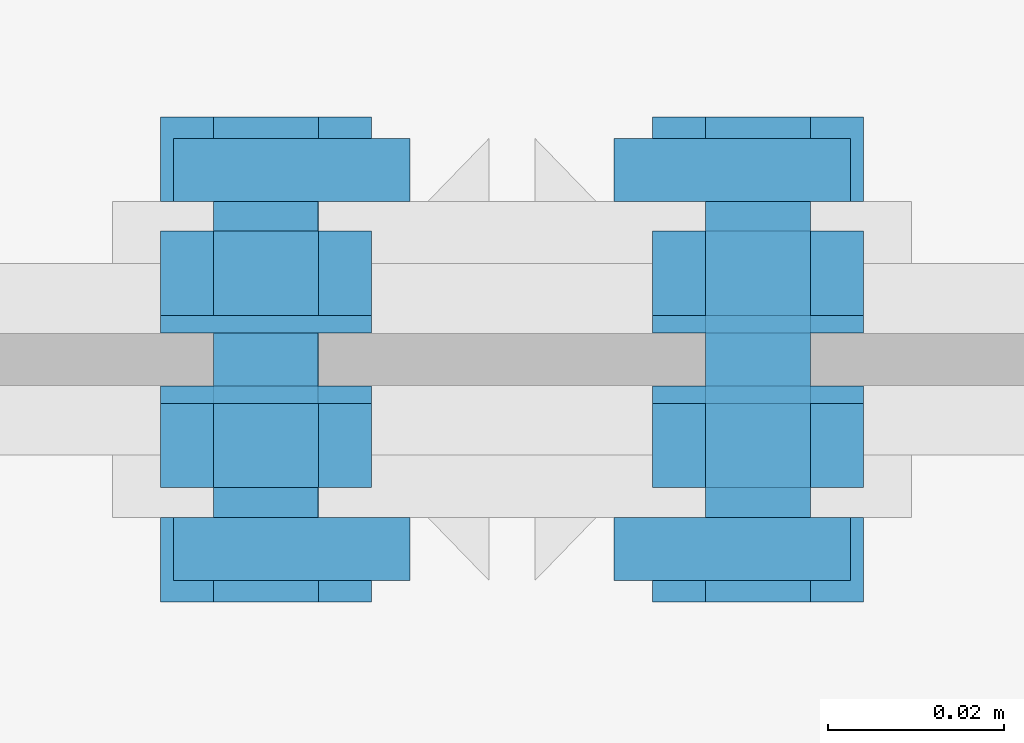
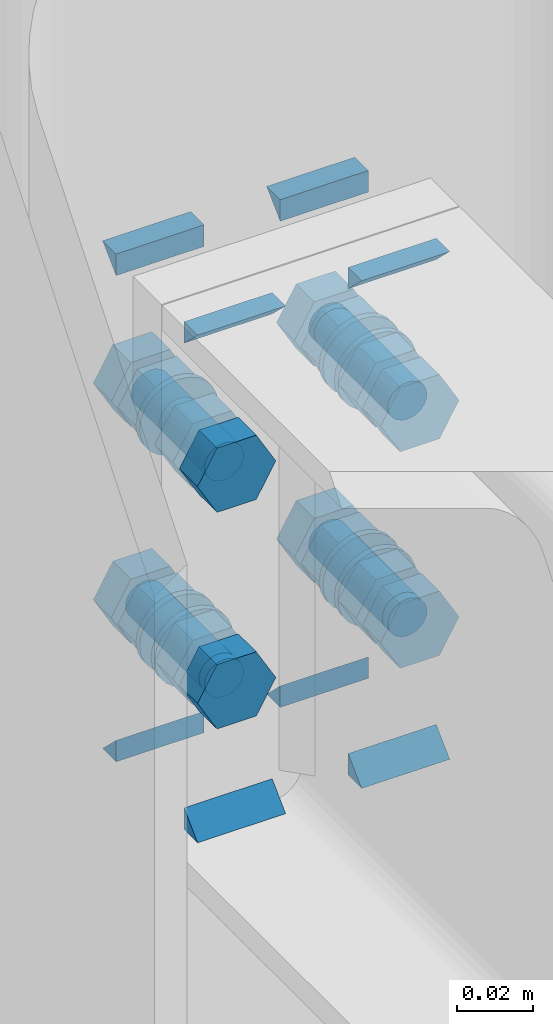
# One storey, part 135 of 251: 31 mechanical fasteners, 16 fasteners.
"""IFC4 building model written with IfcOpenShell, lengths in metres."""

from ifc_helpers import new_model, si_unit, frame, origin_with_axes, place, context, project, spatial, polyline, outline, extrude, type_object, element, save


model = new_model("IFC4")

# Units and contexts
model_context = context("Model", 3, precision=1e-05, world=origin_with_axes())
ifc_project = project(units=[si_unit("LENGTHUNIT", "METRE"), si_unit("AREAUNIT", "SQUARE_METRE"), si_unit("VOLUMEUNIT", "CUBIC_METRE"), si_unit("MASSUNIT", "GRAM", prefix="KILO"), si_unit("TIMEUNIT", "SECOND"), si_unit("PLANEANGLEUNIT", "RADIAN"), si_unit("SOLIDANGLEUNIT", "STERADIAN"), si_unit("THERMODYNAMICTEMPERATUREUNIT", "DEGREE_CELSIUS")], contexts=[model_context])

# Site, building, storey
placement_1 = place(None, origin_with_axes())
site = spatial("IfcSite", under=ifc_project, at=placement_1, Name="Italia", CompositionType="ELEMENT")
building = spatial("IfcBuilding", under=site, at=placement_1, Name="Deposito", CompositionType="ELEMENT")
storey = spatial("IfcBuildingStorey", under=building, at=placement_1, Name="Storey 0", CompositionType="ELEMENT", Elevation=0.0)

# Fasteners
fastener_type_1 = type_object("IfcFastenerType", Name="Collegamento -072_-071", PredefinedType="WELD")
placement_2 = place(placement_1, origin_with_axes())
fastener_1_placement = place(placement_2, origin_with_axes())
element("IfcFastener", 1, at=fastener_1_placement, inside=storey, type_object=fastener_type_1, Name="Collegamento -072_-071", context=model_context, shape_type="SweptSolid", body=[
    extrude(outline(polyline([(0.0, 0.0), (-0.00717354, 0.00695801), (0.0, 0.00695801), (0.0, 0.0)])), frame((6.01145, 14.982, 6.89527), z_axis=(1.0, 0.0, 0.0), x_axis=(0.0, 1.0, 0.0)), (0.0, 0.0, 1.0), 0.0269499),
])
fastener_type_2 = type_object("IfcFastenerType", Name="Collegamento -072_-071", PredefinedType="WELD")
fastener_2_placement = place(placement_2, origin_with_axes())
element("IfcFastener", 2, at=fastener_2_placement, inside=storey, type_object=fastener_type_2, Name="Collegamento -072_-071", context=model_context, shape_type="SweptSolid", body=[
    extrude(outline(polyline([(0.0, 0.0), (0.00717354, -0.00695801), (0.0, -0.00695801), (0.0, 0.0)])), frame((6.0384, 14.982, 6.74509), z_axis=(-1.0, 0.0, 0.0), x_axis=(0.0, -1.0, 0.0)), (0.0, 0.0, 1.0), 0.0269499),
])
fastener_type_3 = type_object("IfcFastenerType", Name="Collegamento -072_-071", PredefinedType="WELD")
fastener_3_placement = place(placement_2, origin_with_axes())
element("IfcFastener", 3, at=fastener_3_placement, inside=storey, type_object=fastener_type_3, Name="Collegamento -072_-071", context=model_context, shape_type="SweptSolid", body=[
    extrude(outline(polyline([(0.0, 0.0), (0.00717354, -0.00695801), (0.0, -0.00695801), (0.0, 0.0)])), frame((6.08855, 14.982, 6.74509), z_axis=(-1.0, 0.0, 0.0), x_axis=(0.0, -1.0, 0.0)), (0.0, 0.0, 1.0), 0.0269499),
])
fastener_type_4 = type_object("IfcFastenerType", Name="Collegamento -072_-071", PredefinedType="WELD")
fastener_4_placement = place(placement_2, origin_with_axes())
element("IfcFastener", 4, at=fastener_4_placement, inside=storey, type_object=fastener_type_4, Name="Collegamento -072_-071", context=model_context, shape_type="SweptSolid", body=[
    extrude(outline(polyline([(0.0, 0.0), (-0.00717354, 0.00695801), (0.0, 0.00695801), (0.0, 0.0)])), frame((6.0616, 14.982, 6.89527), z_axis=(1.0, 0.0, 0.0), x_axis=(0.0, 1.0, 0.0)), (0.0, 0.0, 1.0), 0.0269499),
])
fastener_type_5 = type_object("IfcFastenerType", Name="Collegamento -072_-071", PredefinedType="WELD")
fastener_5_placement = place(placement_2, origin_with_axes())
element("IfcFastener", 5, at=fastener_5_placement, inside=storey, type_object=fastener_type_5, Name="Collegamento -072_-071", context=model_context, shape_type="SweptSolid", body=[
    extrude(outline(polyline([(0.0, 0.0), (-0.00717354, 0.00695801), (0.0, 0.00695801), (0.0, 0.0)])), frame((6.01145, 14.982, 6.89527), z_axis=(1.0, 0.0, 0.0), x_axis=(0.0, 1.0, 0.0)), (0.0, 0.0, 1.0), 0.0269499),
])
fastener_type_6 = type_object("IfcFastenerType", Name="Collegamento -072_-071", PredefinedType="WELD")
fastener_6_placement = place(placement_2, origin_with_axes())
element("IfcFastener", 6, at=fastener_6_placement, inside=storey, type_object=fastener_type_6, Name="Collegamento -072_-071", context=model_context, shape_type="SweptSolid", body=[
    extrude(outline(polyline([(0.0, 0.0), (0.00717354, -0.00695801), (0.0, -0.00695801), (0.0, 0.0)])), frame((6.0384, 14.982, 6.74509), z_axis=(-1.0, 0.0, 0.0), x_axis=(0.0, -1.0, 0.0)), (0.0, 0.0, 1.0), 0.0269499),
])
fastener_type_7 = type_object("IfcFastenerType", Name="Collegamento -072_-071", PredefinedType="WELD")
fastener_7_placement = place(placement_2, origin_with_axes())
element("IfcFastener", 7, at=fastener_7_placement, inside=storey, type_object=fastener_type_7, Name="Collegamento -072_-071", context=model_context, shape_type="SweptSolid", body=[
    extrude(outline(polyline([(0.0, 0.0), (0.00717354, -0.00695801), (0.0, -0.00695801), (0.0, 0.0)])), frame((6.08855, 14.982, 6.74509), z_axis=(-1.0, 0.0, 0.0), x_axis=(0.0, -1.0, 0.0)), (0.0, 0.0, 1.0), 0.0269499),
])
fastener_type_8 = type_object("IfcFastenerType", Name="Collegamento -072_-071", PredefinedType="WELD")
fastener_8_placement = place(placement_2, origin_with_axes())
element("IfcFastener", 8, at=fastener_8_placement, inside=storey, type_object=fastener_type_8, Name="Collegamento -072_-071", context=model_context, shape_type="SweptSolid", body=[
    extrude(outline(polyline([(0.0, 0.0), (-0.00717354, 0.00695801), (0.0, 0.00695801), (0.0, 0.0)])), frame((6.0616, 14.982, 6.89527), z_axis=(1.0, 0.0, 0.0), x_axis=(0.0, 1.0, 0.0)), (0.0, 0.0, 1.0), 0.0269499),
])

# Mechanical fasteners
mechanical_fastener_type_1 = type_object("IfcMechanicalFastenerType", Name="Collegamento -072_-071", PredefinedType="BOLT")
mechanical_fastener_1_placement = place(placement_2, origin_with_axes())
element("IfcMechanicalFastener", 9, at=mechanical_fastener_1_placement, inside=storey, type_object=mechanical_fastener_type_1, Name="Collegamento -072_-071", NominalDiameter=0.0119999, context=model_context, shape_type="SweptSolid", body=[
    extrude(outline(polyline([(0.0, 0.0), (-0.0120001, 0.0), (-0.0180001, 0.0103927), (-0.0120001, 0.0207849), (0.0, 0.0207849), (0.00600004, 0.0103927), (0.0, 0.0)])), frame((6.028, 14.982, 6.77479), z_axis=(0.0, -1.0, 0.0), x_axis=(1.0, 0.0, 0.0)), (0.0, 0.0, 1.0), 0.00959969),
])
mechanical_fastener_type_2 = type_object("IfcMechanicalFastenerType", Name="Collegamento -072_-071", PredefinedType="BOLT")
mechanical_fastener_2_placement = place(placement_2, origin_with_axes())
element("IfcMechanicalFastener", 10, at=mechanical_fastener_2_placement, inside=storey, type_object=mechanical_fastener_type_2, Name="Collegamento -072_-071", NominalDiameter=0.012, context=model_context, shape_type="SweptSolid", body=[
    extrude(outline(polyline([(0.0, 0.0), (-0.000204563, -0.00155306), (-0.000803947, -0.00299978), (-0.00175762, -0.00424242), (-0.00300026, -0.00519609), (-0.00444698, -0.00579548), (-0.00600004, -0.00600004), (-0.0075531, -0.00579548), (-0.00899982, -0.00519609), (-0.0102425, -0.00424242), (-0.0111961, -0.00299978), (-0.0117955, -0.00155306), (-0.0120001, 0.0), (-0.0117955, 0.00155306), (-0.0111961, 0.00299978), (-0.0102425, 0.00424242), (-0.00899982, 0.00519609), (-0.0075531, 0.00579548), (-0.00600004, 0.00600004), (-0.00444698, 0.00579548), (-0.00300026, 0.00519609), (-0.00175762, 0.00424242), (-0.000803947, 0.00299978), (-0.000204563, 0.00155306), (0.0, 0.0)])), frame((6.028, 15.021, 6.78518), z_axis=(0.0, -1.0, 0.0), x_axis=(1.0, 0.0, 0.0)), (0.0, 0.0, 1.0), 0.0390005),
])
mechanical_fastener_type_3 = type_object("IfcMechanicalFastenerType", Name="Collegamento -072_-071", PredefinedType="BOLT")
mechanical_fastener_3_placement = place(placement_2, origin_with_axes())
element("IfcMechanicalFastener", 11, at=mechanical_fastener_3_placement, inside=storey, type_object=mechanical_fastener_type_3, Name="Collegamento -072_-071", NominalDiameter=0.0119999, context=model_context, shape_type="SweptSolid", body=[
    extrude(outline(polyline([(0.0, 0.0), (-0.0120001, 0.0), (-0.0180001, 0.0103927), (-0.0120001, 0.0207849), (0.0, 0.0207849), (0.00600004, 0.0103927), (0.0, 0.0)])), frame((6.028, 15.0146, 6.77479), z_axis=(0.0, -1.0, 0.0), x_axis=(1.0, 0.0, 0.0)), (0.0, 0.0, 1.0), 0.00959969),
])
mechanical_fastener_type_4 = type_object("IfcMechanicalFastenerType", Name="Collegamento -072_-071", PredefinedType="BOLT")
mechanical_fastener_4_placement = place(placement_2, origin_with_axes())
element("IfcMechanicalFastener", 12, at=mechanical_fastener_4_placement, inside=storey, type_object=mechanical_fastener_type_4, Name="Collegamento -072_-071", NominalDiameter=0.024, context=model_context, shape_type="SweptSolid", body=[
    extrude(outline(polyline([(0.0, 0.0), (-0.000409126, -0.00310564), (-0.00160789, -0.00600004), (-0.00351477, -0.00848532), (-0.00600004, -0.0103922), (-0.00889444, -0.011591), (-0.0120001, -0.0120001), (-0.0151057, -0.011591), (-0.0180001, -0.0103922), (-0.0204854, -0.00848532), (-0.0223923, -0.00600004), (-0.023591, -0.00310564), (-0.0240002, 0.0), (-0.023591, 0.00310564), (-0.0223923, 0.00600004), (-0.0204854, 0.00848532), (-0.0180001, 0.0103922), (-0.0151057, 0.011591), (-0.0120001, 0.0120001), (-0.00889444, 0.011591), (-0.00600004, 0.0103922), (-0.00351477, 0.00848532), (-0.00160789, 0.00600004), (-0.000409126, 0.00310564), (0.0, 0.0)])), frame((6.034, 15.005, 6.78518), z_axis=(0.0, -1.0, 0.0), x_axis=(1.0, 0.0, 0.0)), (0.0, 0.0, 1.0), 0.00200081),
])
mechanical_fastener_type_5 = type_object("IfcMechanicalFastenerType", Name="Collegamento -072_-071", PredefinedType="BOLT")
mechanical_fastener_5_placement = place(placement_2, origin_with_axes())
element("IfcMechanicalFastener", 13, at=mechanical_fastener_5_placement, inside=storey, type_object=mechanical_fastener_type_5, Name="Collegamento -072_-071", NominalDiameter=0.0119999, context=model_context, shape_type="SweptSolid", body=[
    extrude(outline(polyline([(0.0, 0.0), (-0.0120001, 0.0), (-0.0180001, 0.0103927), (-0.0120001, 0.0207849), (0.0, 0.0207849), (0.00600004, 0.0103927), (0.0, 0.0)])), frame((6.084, 14.982, 6.77479), z_axis=(0.0, -1.0, 0.0), x_axis=(1.0, 0.0, 0.0)), (0.0, 0.0, 1.0), 0.00959969),
])
mechanical_fastener_type_6 = type_object("IfcMechanicalFastenerType", Name="Collegamento -072_-071", PredefinedType="BOLT")
mechanical_fastener_6_placement = place(placement_2, origin_with_axes())
element("IfcMechanicalFastener", 14, at=mechanical_fastener_6_placement, inside=storey, type_object=mechanical_fastener_type_6, Name="Collegamento -072_-071", NominalDiameter=0.012, context=model_context, shape_type="SweptSolid", body=[
    extrude(outline(polyline([(0.0, 0.0), (-0.000204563, -0.00155306), (-0.000803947, -0.00299978), (-0.00175762, -0.00424242), (-0.00300026, -0.00519609), (-0.00444698, -0.00579548), (-0.00600004, -0.00600004), (-0.0075531, -0.00579548), (-0.00899982, -0.00519609), (-0.0102425, -0.00424242), (-0.0111961, -0.00299978), (-0.0117955, -0.00155306), (-0.0120001, 0.0), (-0.0117955, 0.00155306), (-0.0111961, 0.00299978), (-0.0102425, 0.00424242), (-0.00899982, 0.00519609), (-0.0075531, 0.00579548), (-0.00600004, 0.00600004), (-0.00444698, 0.00579548), (-0.00300026, 0.00519609), (-0.00175762, 0.00424242), (-0.000803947, 0.00299978), (-0.000204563, 0.00155306), (0.0, 0.0)])), frame((6.084, 15.021, 6.78518), z_axis=(0.0, -1.0, 0.0), x_axis=(1.0, 0.0, 0.0)), (0.0, 0.0, 1.0), 0.0390005),
])
mechanical_fastener_type_7 = type_object("IfcMechanicalFastenerType", Name="Collegamento -072_-071", PredefinedType="BOLT")
mechanical_fastener_7_placement = place(placement_2, origin_with_axes())
element("IfcMechanicalFastener", 15, at=mechanical_fastener_7_placement, inside=storey, type_object=mechanical_fastener_type_7, Name="Collegamento -072_-071", NominalDiameter=0.0119999, context=model_context, shape_type="SweptSolid", body=[
    extrude(outline(polyline([(0.0, 0.0), (-0.0120001, 0.0), (-0.0180001, 0.0103927), (-0.0120001, 0.0207849), (0.0, 0.0207849), (0.00600004, 0.0103927), (0.0, 0.0)])), frame((6.084, 15.0146, 6.77479), z_axis=(0.0, -1.0, 0.0), x_axis=(1.0, 0.0, 0.0)), (0.0, 0.0, 1.0), 0.00959969),
])
mechanical_fastener_type_8 = type_object("IfcMechanicalFastenerType", Name="Collegamento -072_-071", PredefinedType="BOLT")
mechanical_fastener_8_placement = place(placement_2, origin_with_axes())
element("IfcMechanicalFastener", 16, at=mechanical_fastener_8_placement, inside=storey, type_object=mechanical_fastener_type_8, Name="Collegamento -072_-071", NominalDiameter=0.024, context=model_context, shape_type="SweptSolid", body=[
    extrude(outline(polyline([(0.0, 0.0), (-0.000409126, -0.00310564), (-0.00160789, -0.00600004), (-0.00351477, -0.00848532), (-0.00600004, -0.0103922), (-0.00889444, -0.011591), (-0.0120001, -0.0120001), (-0.0151057, -0.011591), (-0.0180001, -0.0103922), (-0.0204854, -0.00848532), (-0.0223923, -0.00600004), (-0.023591, -0.00310564), (-0.0240002, 0.0), (-0.023591, 0.00310564), (-0.0223923, 0.00600004), (-0.0204854, 0.00848532), (-0.0180001, 0.0103922), (-0.0151057, 0.011591), (-0.0120001, 0.0120001), (-0.00889444, 0.011591), (-0.00600004, 0.0103922), (-0.00351477, 0.00848532), (-0.00160789, 0.00600004), (-0.000409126, 0.00310564), (0.0, 0.0)])), frame((6.09, 15.005, 6.78518), z_axis=(0.0, -1.0, 0.0), x_axis=(1.0, 0.0, 0.0)), (0.0, 0.0, 1.0), 0.00200081),
])
mechanical_fastener_type_9 = type_object("IfcMechanicalFastenerType", Name="Collegamento -072_-071", PredefinedType="BOLT")
mechanical_fastener_9_placement = place(placement_2, origin_with_axes())
element("IfcMechanicalFastener", 17, at=mechanical_fastener_9_placement, inside=storey, type_object=mechanical_fastener_type_9, Name="Collegamento -072_-071", NominalDiameter=0.0119999, context=model_context, shape_type="SweptSolid", body=[
    extrude(outline(polyline([(0.0, 0.0), (-0.0120001, 0.0), (-0.0180001, 0.0103922), (-0.0120001, 0.0207849), (0.0, 0.0207849), (0.00600004, 0.0103922), (0.0, 0.0)])), frame((6.028, 14.982, 6.84479), z_axis=(0.0, -1.0, 0.0), x_axis=(1.0, 0.0, 0.0)), (0.0, 0.0, 1.0), 0.00959969),
])
mechanical_fastener_type_10 = type_object("IfcMechanicalFastenerType", Name="Collegamento -072_-071", PredefinedType="BOLT")
mechanical_fastener_10_placement = place(placement_2, origin_with_axes())
element("IfcMechanicalFastener", 18, at=mechanical_fastener_10_placement, inside=storey, type_object=mechanical_fastener_type_10, Name="Collegamento -072_-071", NominalDiameter=0.012, context=model_context, shape_type="SweptSolid", body=[
    extrude(outline(polyline([(0.0, 0.0), (-0.000204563, -0.00155306), (-0.000803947, -0.00299978), (-0.00175762, -0.00424242), (-0.00300026, -0.00519609), (-0.00444698, -0.00579548), (-0.00600004, -0.00600004), (-0.0075531, -0.00579548), (-0.00899982, -0.00519609), (-0.0102425, -0.00424242), (-0.0111961, -0.00299978), (-0.0117955, -0.00155306), (-0.0120001, 0.0), (-0.0117955, 0.00155306), (-0.0111961, 0.00299978), (-0.0102425, 0.00424242), (-0.00899982, 0.00519609), (-0.0075531, 0.00579548), (-0.00600004, 0.00600004), (-0.00444698, 0.00579548), (-0.00300026, 0.00519609), (-0.00175762, 0.00424242), (-0.000803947, 0.00299978), (-0.000204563, 0.00155306), (0.0, 0.0)])), frame((6.028, 15.021, 6.85518), z_axis=(0.0, -1.0, 0.0), x_axis=(1.0, 0.0, 0.0)), (0.0, 0.0, 1.0), 0.0390005),
])
mechanical_fastener_type_11 = type_object("IfcMechanicalFastenerType", Name="Collegamento -072_-071", PredefinedType="BOLT")
mechanical_fastener_11_placement = place(placement_2, origin_with_axes())
element("IfcMechanicalFastener", 19, at=mechanical_fastener_11_placement, inside=storey, type_object=mechanical_fastener_type_11, Name="Collegamento -072_-071", NominalDiameter=0.0119999, context=model_context, shape_type="SweptSolid", body=[
    extrude(outline(polyline([(0.0, 0.0), (-0.0120001, 0.0), (-0.0180001, 0.0103922), (-0.0120001, 0.0207849), (0.0, 0.0207849), (0.00600004, 0.0103922), (0.0, 0.0)])), frame((6.028, 15.0146, 6.84479), z_axis=(0.0, -1.0, 0.0), x_axis=(1.0, 0.0, 0.0)), (0.0, 0.0, 1.0), 0.00959969),
])
mechanical_fastener_type_12 = type_object("IfcMechanicalFastenerType", Name="Collegamento -072_-071", PredefinedType="BOLT")
mechanical_fastener_12_placement = place(placement_2, origin_with_axes())
element("IfcMechanicalFastener", 20, at=mechanical_fastener_12_placement, inside=storey, type_object=mechanical_fastener_type_12, Name="Collegamento -072_-071", NominalDiameter=0.024, context=model_context, shape_type="SweptSolid", body=[
    extrude(outline(polyline([(0.0, 0.0), (-0.000409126, -0.00310564), (-0.00160789, -0.00600004), (-0.00351477, -0.00848532), (-0.00600004, -0.0103922), (-0.00889444, -0.011591), (-0.0120001, -0.0120001), (-0.0151057, -0.011591), (-0.0180001, -0.0103922), (-0.0204854, -0.00848532), (-0.0223923, -0.00600004), (-0.023591, -0.00310564), (-0.0240002, 0.0), (-0.023591, 0.00310564), (-0.0223923, 0.00600004), (-0.0204854, 0.00848532), (-0.0180001, 0.0103922), (-0.0151057, 0.011591), (-0.0120001, 0.0120001), (-0.00889444, 0.011591), (-0.00600004, 0.0103922), (-0.00351477, 0.00848532), (-0.00160789, 0.00600004), (-0.000409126, 0.00310564), (0.0, 0.0)])), frame((6.034, 15.005, 6.85518), z_axis=(0.0, -1.0, 0.0), x_axis=(1.0, 0.0, 0.0)), (0.0, 0.0, 1.0), 0.00200081),
])
mechanical_fastener_type_13 = type_object("IfcMechanicalFastenerType", Name="Collegamento -072_-071", PredefinedType="BOLT")
mechanical_fastener_13_placement = place(placement_2, origin_with_axes())
element("IfcMechanicalFastener", 21, at=mechanical_fastener_13_placement, inside=storey, type_object=mechanical_fastener_type_13, Name="Collegamento -072_-071", NominalDiameter=0.0119999, context=model_context, shape_type="SweptSolid", body=[
    extrude(outline(polyline([(0.0, 0.0), (-0.0120001, 0.0), (-0.0180001, 0.0103922), (-0.0120001, 0.0207849), (0.0, 0.0207849), (0.00600004, 0.0103922), (0.0, 0.0)])), frame((6.084, 14.982, 6.84479), z_axis=(0.0, -1.0, 0.0), x_axis=(1.0, 0.0, 0.0)), (0.0, 0.0, 1.0), 0.00959969),
])
mechanical_fastener_type_14 = type_object("IfcMechanicalFastenerType", Name="Collegamento -072_-071", PredefinedType="BOLT")
mechanical_fastener_14_placement = place(placement_2, origin_with_axes())
element("IfcMechanicalFastener", 22, at=mechanical_fastener_14_placement, inside=storey, type_object=mechanical_fastener_type_14, Name="Collegamento -072_-071", NominalDiameter=0.012, context=model_context, shape_type="SweptSolid", body=[
    extrude(outline(polyline([(0.0, 0.0), (-0.000204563, -0.00155306), (-0.000803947, -0.00299978), (-0.00175762, -0.00424242), (-0.00300026, -0.00519609), (-0.00444698, -0.00579548), (-0.00600004, -0.00600004), (-0.0075531, -0.00579548), (-0.00899982, -0.00519609), (-0.0102425, -0.00424242), (-0.0111961, -0.00299978), (-0.0117955, -0.00155306), (-0.0120001, 0.0), (-0.0117955, 0.00155306), (-0.0111961, 0.00299978), (-0.0102425, 0.00424242), (-0.00899982, 0.00519609), (-0.0075531, 0.00579548), (-0.00600004, 0.00600004), (-0.00444698, 0.00579548), (-0.00300026, 0.00519609), (-0.00175762, 0.00424242), (-0.000803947, 0.00299978), (-0.000204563, 0.00155306), (0.0, 0.0)])), frame((6.084, 15.021, 6.85518), z_axis=(0.0, -1.0, 0.0), x_axis=(1.0, 0.0, 0.0)), (0.0, 0.0, 1.0), 0.0390005),
])
mechanical_fastener_type_15 = type_object("IfcMechanicalFastenerType", Name="Collegamento -072_-071", PredefinedType="BOLT")
mechanical_fastener_15_placement = place(placement_2, origin_with_axes())
element("IfcMechanicalFastener", 23, at=mechanical_fastener_15_placement, inside=storey, type_object=mechanical_fastener_type_15, Name="Collegamento -072_-071", NominalDiameter=0.0119999, context=model_context, shape_type="SweptSolid", body=[
    extrude(outline(polyline([(0.0, 0.0), (-0.0120001, 0.0), (-0.0180001, 0.0103922), (-0.0120001, 0.0207849), (0.0, 0.0207849), (0.00600004, 0.0103922), (0.0, 0.0)])), frame((6.084, 15.0146, 6.84479), z_axis=(0.0, -1.0, 0.0), x_axis=(1.0, 0.0, 0.0)), (0.0, 0.0, 1.0), 0.00959969),
])
mechanical_fastener_type_16 = type_object("IfcMechanicalFastenerType", Name="Collegamento -072_-071", PredefinedType="BOLT")
mechanical_fastener_16_placement = place(placement_2, origin_with_axes())
element("IfcMechanicalFastener", 24, at=mechanical_fastener_16_placement, inside=storey, type_object=mechanical_fastener_type_16, Name="Collegamento -072_-071", NominalDiameter=0.024, context=model_context, shape_type="SweptSolid", body=[
    extrude(outline(polyline([(0.0, 0.0), (-0.000409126, -0.00310564), (-0.00160789, -0.00600004), (-0.00351477, -0.00848532), (-0.00600004, -0.0103922), (-0.00889444, -0.011591), (-0.0120001, -0.0120001), (-0.0151057, -0.011591), (-0.0180001, -0.0103922), (-0.0204854, -0.00848532), (-0.0223923, -0.00600004), (-0.023591, -0.00310564), (-0.0240002, 0.0), (-0.023591, 0.00310564), (-0.0223923, 0.00600004), (-0.0204854, 0.00848532), (-0.0180001, 0.0103922), (-0.0151057, 0.011591), (-0.0120001, 0.0120001), (-0.00889444, 0.011591), (-0.00600004, 0.0103922), (-0.00351477, 0.00848532), (-0.00160789, 0.00600004), (-0.000409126, 0.00310564), (0.0, 0.0)])), frame((6.09, 15.005, 6.85518), z_axis=(0.0, -1.0, 0.0), x_axis=(1.0, 0.0, 0.0)), (0.0, 0.0, 1.0), 0.00200081),
])

# Fasteners
fastener_type_9 = type_object("IfcFastenerType", Name="Collegamento -072_-073", PredefinedType="WELD")
fastener_9_placement = place(placement_2, origin_with_axes())
element("IfcFastener", 25, at=fastener_9_placement, inside=storey, type_object=fastener_type_9, Name="Collegamento -072_-073", context=model_context, shape_type="SweptSolid", body=[
    extrude(outline(polyline([(0.0, 0.0), (-0.00717354, 0.00695801), (0.0, 0.00695801), (0.0, 0.0)])), frame((6.0384, 15.018, 6.89527), z_axis=(-1.0, 0.0, 0.0), x_axis=(0.0, -1.0, 0.0)), (0.0, 0.0, 1.0), 0.0269499),
])
fastener_type_10 = type_object("IfcFastenerType", Name="Collegamento -072_-073", PredefinedType="WELD")
fastener_10_placement = place(placement_2, origin_with_axes())
element("IfcFastener", 26, at=fastener_10_placement, inside=storey, type_object=fastener_type_10, Name="Collegamento -072_-073", context=model_context, shape_type="SweptSolid", body=[
    extrude(outline(polyline([(0.0, 0.0), (0.00717354, -0.00695801), (0.0, -0.00695801), (0.0, 0.0)])), frame((6.01145, 15.018, 6.74509), z_axis=(1.0, 0.0, 0.0), x_axis=(0.0, 1.0, 0.0)), (0.0, 0.0, 1.0), 0.0269499),
])
fastener_type_11 = type_object("IfcFastenerType", Name="Collegamento -072_-073", PredefinedType="WELD")
fastener_11_placement = place(placement_2, origin_with_axes())
element("IfcFastener", 27, at=fastener_11_placement, inside=storey, type_object=fastener_type_11, Name="Collegamento -072_-073", context=model_context, shape_type="SweptSolid", body=[
    extrude(outline(polyline([(0.0, 0.0), (0.00717354, -0.00695801), (0.0, -0.00695801), (0.0, 0.0)])), frame((6.0616, 15.018, 6.74509), z_axis=(1.0, 0.0, 0.0), x_axis=(0.0, 1.0, 0.0)), (0.0, 0.0, 1.0), 0.0269499),
])
fastener_type_12 = type_object("IfcFastenerType", Name="Collegamento -072_-073", PredefinedType="WELD")
fastener_12_placement = place(placement_2, origin_with_axes())
element("IfcFastener", 28, at=fastener_12_placement, inside=storey, type_object=fastener_type_12, Name="Collegamento -072_-073", context=model_context, shape_type="SweptSolid", body=[
    extrude(outline(polyline([(0.0, 0.0), (-0.00717354, 0.00695801), (0.0, 0.00695801), (0.0, 0.0)])), frame((6.08855, 15.018, 6.89527), z_axis=(-1.0, 0.0, 0.0), x_axis=(0.0, -1.0, 0.0)), (0.0, 0.0, 1.0), 0.0269499),
])
fastener_type_13 = type_object("IfcFastenerType", Name="Collegamento -072_-073", PredefinedType="WELD")
fastener_13_placement = place(placement_2, origin_with_axes())
element("IfcFastener", 29, at=fastener_13_placement, inside=storey, type_object=fastener_type_13, Name="Collegamento -072_-073", context=model_context, shape_type="SweptSolid", body=[
    extrude(outline(polyline([(0.0, 0.0), (-0.00717354, 0.00695801), (0.0, 0.00695801), (0.0, 0.0)])), frame((6.0384, 15.018, 6.89527), z_axis=(-1.0, 0.0, 0.0), x_axis=(0.0, -1.0, 0.0)), (0.0, 0.0, 1.0), 0.0269499),
])
fastener_type_14 = type_object("IfcFastenerType", Name="Collegamento -072_-073", PredefinedType="WELD")
fastener_14_placement = place(placement_2, origin_with_axes())
element("IfcFastener", 30, at=fastener_14_placement, inside=storey, type_object=fastener_type_14, Name="Collegamento -072_-073", context=model_context, shape_type="SweptSolid", body=[
    extrude(outline(polyline([(0.0, 0.0), (0.00717354, -0.00695801), (0.0, -0.00695801), (0.0, 0.0)])), frame((6.01145, 15.018, 6.74509), z_axis=(1.0, 0.0, 0.0), x_axis=(0.0, 1.0, 0.0)), (0.0, 0.0, 1.0), 0.0269499),
])
fastener_type_15 = type_object("IfcFastenerType", Name="Collegamento -072_-073", PredefinedType="WELD")
fastener_15_placement = place(placement_2, origin_with_axes())
element("IfcFastener", 31, at=fastener_15_placement, inside=storey, type_object=fastener_type_15, Name="Collegamento -072_-073", context=model_context, shape_type="SweptSolid", body=[
    extrude(outline(polyline([(0.0, 0.0), (0.00717354, -0.00695801), (0.0, -0.00695801), (0.0, 0.0)])), frame((6.0616, 15.018, 6.74509), z_axis=(1.0, 0.0, 0.0), x_axis=(0.0, 1.0, 0.0)), (0.0, 0.0, 1.0), 0.0269499),
])
fastener_type_16 = type_object("IfcFastenerType", Name="Collegamento -072_-073", PredefinedType="WELD")
fastener_16_placement = place(placement_2, origin_with_axes())
element("IfcFastener", 32, at=fastener_16_placement, inside=storey, type_object=fastener_type_16, Name="Collegamento -072_-073", context=model_context, shape_type="SweptSolid", body=[
    extrude(outline(polyline([(0.0, 0.0), (-0.00717354, 0.00695801), (0.0, 0.00695801), (0.0, 0.0)])), frame((6.08855, 15.018, 6.89527), z_axis=(-1.0, 0.0, 0.0), x_axis=(0.0, -1.0, 0.0)), (0.0, 0.0, 1.0), 0.0269499),
])

# Mechanical fasteners
mechanical_fastener_type_17 = type_object("IfcMechanicalFastenerType", Name="Collegamento -072_-073", PredefinedType="BOLT")
mechanical_fastener_17_placement = place(placement_2, origin_with_axes())
element("IfcMechanicalFastener", 33, at=mechanical_fastener_17_placement, inside=storey, type_object=mechanical_fastener_type_17, Name="Collegamento -072_-073", NominalDiameter=0.0119999, context=model_context, shape_type="SweptSolid", body=[
    extrude(outline(polyline([(0.0, 0.0), (-0.0120001, 0.0), (-0.0180001, 0.0103927), (-0.0120001, 0.0207849), (0.0, 0.0207849), (0.00600004, 0.0103927), (0.0, 0.0)])), frame((6.072, 15.018, 6.77479), z_axis=(0.0, 1.0, 0.0), x_axis=(-1.0, 0.0, 0.0)), (0.0, 0.0, 1.0), 0.00959969),
])
mechanical_fastener_type_18 = type_object("IfcMechanicalFastenerType", Name="Collegamento -072_-073", PredefinedType="BOLT")
mechanical_fastener_18_placement = place(placement_2, origin_with_axes())
element("IfcMechanicalFastener", 34, at=mechanical_fastener_18_placement, inside=storey, type_object=mechanical_fastener_type_18, Name="Collegamento -072_-073", NominalDiameter=0.012, context=model_context, shape_type="SweptSolid", body=[
    extrude(outline(polyline([(0.0, 0.0), (-0.000204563, -0.00155306), (-0.000803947, -0.00299978), (-0.00175762, -0.00424242), (-0.00300026, -0.00519609), (-0.00444698, -0.00579548), (-0.00600004, -0.00600004), (-0.0075531, -0.00579548), (-0.00899982, -0.00519609), (-0.0102425, -0.00424242), (-0.0111961, -0.00299978), (-0.0117955, -0.00155306), (-0.0120001, 0.0), (-0.0117955, 0.00155306), (-0.0111961, 0.00299978), (-0.0102425, 0.00424242), (-0.00899982, 0.00519609), (-0.0075531, 0.00579548), (-0.00600004, 0.00600004), (-0.00444698, 0.00579548), (-0.00300026, 0.00519609), (-0.00175762, 0.00424242), (-0.000803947, 0.00299978), (-0.000204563, 0.00155306), (0.0, 0.0)])), frame((6.072, 14.979, 6.78518), z_axis=(0.0, 1.0, 0.0), x_axis=(-1.0, 0.0, 0.0)), (0.0, 0.0, 1.0), 0.0390005),
])
mechanical_fastener_type_19 = type_object("IfcMechanicalFastenerType", Name="Collegamento -072_-073", PredefinedType="BOLT")
mechanical_fastener_19_placement = place(placement_2, origin_with_axes())
element("IfcMechanicalFastener", 35, at=mechanical_fastener_19_placement, inside=storey, type_object=mechanical_fastener_type_19, Name="Collegamento -072_-073", NominalDiameter=0.0119999, context=model_context, shape_type="SweptSolid", body=[
    extrude(outline(polyline([(0.0, 0.0), (-0.0120001, 0.0), (-0.0180001, 0.0103927), (-0.0120001, 0.0207849), (0.0, 0.0207849), (0.00600004, 0.0103927), (0.0, 0.0)])), frame((6.072, 14.9854, 6.77479), z_axis=(0.0, 1.0, 0.0), x_axis=(-1.0, 0.0, 0.0)), (0.0, 0.0, 1.0), 0.00959969),
])
mechanical_fastener_type_20 = type_object("IfcMechanicalFastenerType", Name="Collegamento -072_-073", PredefinedType="BOLT")
mechanical_fastener_20_placement = place(placement_2, origin_with_axes())
element("IfcMechanicalFastener", 36, at=mechanical_fastener_20_placement, inside=storey, type_object=mechanical_fastener_type_20, Name="Collegamento -072_-073", NominalDiameter=0.024, context=model_context, shape_type="SweptSolid", body=[
    extrude(outline(polyline([(0.0, 0.0), (-0.000409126, -0.00310564), (-0.00160789, -0.00600004), (-0.00351477, -0.00848532), (-0.00600004, -0.0103922), (-0.00889444, -0.011591), (-0.0120001, -0.0120001), (-0.0151057, -0.011591), (-0.0180001, -0.0103922), (-0.0204854, -0.00848532), (-0.0223923, -0.00600004), (-0.023591, -0.00310564), (-0.0240002, 0.0), (-0.023591, 0.00310564), (-0.0223923, 0.00600004), (-0.0204854, 0.00848532), (-0.0180001, 0.0103922), (-0.0151057, 0.011591), (-0.0120001, 0.0120001), (-0.00889444, 0.011591), (-0.00600004, 0.0103922), (-0.00351477, 0.00848532), (-0.00160789, 0.00600004), (-0.000409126, 0.00310564), (0.0, 0.0)])), frame((6.066, 14.995, 6.78518), z_axis=(0.0, 1.0, 0.0), x_axis=(-1.0, 0.0, 0.0)), (0.0, 0.0, 1.0), 0.00200081),
])
mechanical_fastener_type_21 = type_object("IfcMechanicalFastenerType", Name="Collegamento -072_-073", PredefinedType="BOLT")
mechanical_fastener_21_placement = place(placement_2, origin_with_axes())
element("IfcMechanicalFastener", 37, at=mechanical_fastener_21_placement, inside=storey, type_object=mechanical_fastener_type_21, Name="Collegamento -072_-073", NominalDiameter=0.0119999, context=model_context, shape_type="SweptSolid", body=[
    extrude(outline(polyline([(0.0, 0.0), (-0.0120001, 0.0), (-0.0180001, 0.0103927), (-0.0120001, 0.0207849), (0.0, 0.0207849), (0.00600004, 0.0103927), (0.0, 0.0)])), frame((6.016, 15.018, 6.77479), z_axis=(0.0, 1.0, 0.0), x_axis=(-1.0, 0.0, 0.0)), (0.0, 0.0, 1.0), 0.00959969),
])
mechanical_fastener_type_22 = type_object("IfcMechanicalFastenerType", Name="Collegamento -072_-073", PredefinedType="BOLT")
mechanical_fastener_22_placement = place(placement_2, origin_with_axes())
element("IfcMechanicalFastener", 38, at=mechanical_fastener_22_placement, inside=storey, type_object=mechanical_fastener_type_22, Name="Collegamento -072_-073", NominalDiameter=0.012, context=model_context, shape_type="SweptSolid", body=[
    extrude(outline(polyline([(0.0, 0.0), (-0.000204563, -0.00155306), (-0.000803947, -0.00299978), (-0.00175762, -0.00424242), (-0.00300026, -0.00519609), (-0.00444698, -0.00579548), (-0.00600004, -0.00600004), (-0.0075531, -0.00579548), (-0.00899982, -0.00519609), (-0.0102425, -0.00424242), (-0.0111961, -0.00299978), (-0.0117955, -0.00155306), (-0.0120001, 0.0), (-0.0117955, 0.00155306), (-0.0111961, 0.00299978), (-0.0102425, 0.00424242), (-0.00899982, 0.00519609), (-0.0075531, 0.00579548), (-0.00600004, 0.00600004), (-0.00444698, 0.00579548), (-0.00300026, 0.00519609), (-0.00175762, 0.00424242), (-0.000803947, 0.00299978), (-0.000204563, 0.00155306), (0.0, 0.0)])), frame((6.016, 14.979, 6.78518), z_axis=(0.0, 1.0, 0.0), x_axis=(-1.0, 0.0, 0.0)), (0.0, 0.0, 1.0), 0.0390005),
])
mechanical_fastener_type_23 = type_object("IfcMechanicalFastenerType", Name="Collegamento -072_-073", PredefinedType="BOLT")
mechanical_fastener_23_placement = place(placement_2, origin_with_axes())
element("IfcMechanicalFastener", 39, at=mechanical_fastener_23_placement, inside=storey, type_object=mechanical_fastener_type_23, Name="Collegamento -072_-073", NominalDiameter=0.0119999, context=model_context, shape_type="SweptSolid", body=[
    extrude(outline(polyline([(0.0, 0.0), (-0.0120001, 0.0), (-0.0180001, 0.0103927), (-0.0120001, 0.0207849), (0.0, 0.0207849), (0.00600004, 0.0103927), (0.0, 0.0)])), frame((6.016, 14.9854, 6.77479), z_axis=(0.0, 1.0, 0.0), x_axis=(-1.0, 0.0, 0.0)), (0.0, 0.0, 1.0), 0.00959969),
])
mechanical_fastener_type_24 = type_object("IfcMechanicalFastenerType", Name="Collegamento -072_-073", PredefinedType="BOLT")
mechanical_fastener_24_placement = place(placement_2, origin_with_axes())
element("IfcMechanicalFastener", 40, at=mechanical_fastener_24_placement, inside=storey, type_object=mechanical_fastener_type_24, Name="Collegamento -072_-073", NominalDiameter=0.024, context=model_context, shape_type="SweptSolid", body=[
    extrude(outline(polyline([(0.0, 0.0), (-0.000409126, -0.00310564), (-0.00160789, -0.00600004), (-0.00351477, -0.00848532), (-0.00600004, -0.0103922), (-0.00889444, -0.011591), (-0.0120001, -0.0120001), (-0.0151057, -0.011591), (-0.0180001, -0.0103922), (-0.0204854, -0.00848532), (-0.0223923, -0.00600004), (-0.023591, -0.00310564), (-0.0240002, 0.0), (-0.023591, 0.00310564), (-0.0223923, 0.00600004), (-0.0204854, 0.00848532), (-0.0180001, 0.0103922), (-0.0151057, 0.011591), (-0.0120001, 0.0120001), (-0.00889444, 0.011591), (-0.00600004, 0.0103922), (-0.00351477, 0.00848532), (-0.00160789, 0.00600004), (-0.000409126, 0.00310564), (0.0, 0.0)])), frame((6.01, 14.995, 6.78518), z_axis=(0.0, 1.0, 0.0), x_axis=(-1.0, 0.0, 0.0)), (0.0, 0.0, 1.0), 0.00200081),
])
mechanical_fastener_type_25 = type_object("IfcMechanicalFastenerType", Name="Collegamento -072_-073", PredefinedType="BOLT")
mechanical_fastener_25_placement = place(placement_2, origin_with_axes())
element("IfcMechanicalFastener", 41, at=mechanical_fastener_25_placement, inside=storey, type_object=mechanical_fastener_type_25, Name="Collegamento -072_-073", NominalDiameter=0.0119999, context=model_context, shape_type="SweptSolid", body=[
    extrude(outline(polyline([(0.0, 0.0), (-0.0120001, 0.0), (-0.0180001, 0.0103922), (-0.0120001, 0.0207849), (0.0, 0.0207849), (0.00600004, 0.0103922), (0.0, 0.0)])), frame((6.072, 15.018, 6.84479), z_axis=(0.0, 1.0, 0.0), x_axis=(-1.0, 0.0, 0.0)), (0.0, 0.0, 1.0), 0.00959969),
])
mechanical_fastener_type_26 = type_object("IfcMechanicalFastenerType", Name="Collegamento -072_-073", PredefinedType="BOLT")
mechanical_fastener_26_placement = place(placement_2, origin_with_axes())
element("IfcMechanicalFastener", 42, at=mechanical_fastener_26_placement, inside=storey, type_object=mechanical_fastener_type_26, Name="Collegamento -072_-073", NominalDiameter=0.012, context=model_context, shape_type="SweptSolid", body=[
    extrude(outline(polyline([(0.0, 0.0), (-0.000204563, -0.00155306), (-0.000803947, -0.00299978), (-0.00175762, -0.00424242), (-0.00300026, -0.00519609), (-0.00444698, -0.00579548), (-0.00600004, -0.00600004), (-0.0075531, -0.00579548), (-0.00899982, -0.00519609), (-0.0102425, -0.00424242), (-0.0111961, -0.00299978), (-0.0117955, -0.00155306), (-0.0120001, 0.0), (-0.0117955, 0.00155306), (-0.0111961, 0.00299978), (-0.0102425, 0.00424242), (-0.00899982, 0.00519609), (-0.0075531, 0.00579548), (-0.00600004, 0.00600004), (-0.00444698, 0.00579548), (-0.00300026, 0.00519609), (-0.00175762, 0.00424242), (-0.000803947, 0.00299978), (-0.000204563, 0.00155306), (0.0, 0.0)])), frame((6.072, 14.979, 6.85518), z_axis=(0.0, 1.0, 0.0), x_axis=(-1.0, 0.0, 0.0)), (0.0, 0.0, 1.0), 0.0390005),
])
mechanical_fastener_type_27 = type_object("IfcMechanicalFastenerType", Name="Collegamento -072_-073", PredefinedType="BOLT")
mechanical_fastener_27_placement = place(placement_2, origin_with_axes())
element("IfcMechanicalFastener", 43, at=mechanical_fastener_27_placement, inside=storey, type_object=mechanical_fastener_type_27, Name="Collegamento -072_-073", NominalDiameter=0.0119999, context=model_context, shape_type="SweptSolid", body=[
    extrude(outline(polyline([(0.0, 0.0), (-0.0120001, 0.0), (-0.0180001, 0.0103922), (-0.0120001, 0.0207849), (0.0, 0.0207849), (0.00600004, 0.0103922), (0.0, 0.0)])), frame((6.072, 14.9854, 6.84479), z_axis=(0.0, 1.0, 0.0), x_axis=(-1.0, 0.0, 0.0)), (0.0, 0.0, 1.0), 0.00959969),
])
mechanical_fastener_type_28 = type_object("IfcMechanicalFastenerType", Name="Collegamento -072_-073", PredefinedType="BOLT")
mechanical_fastener_28_placement = place(placement_2, origin_with_axes())
element("IfcMechanicalFastener", 44, at=mechanical_fastener_28_placement, inside=storey, type_object=mechanical_fastener_type_28, Name="Collegamento -072_-073", NominalDiameter=0.024, context=model_context, shape_type="SweptSolid", body=[
    extrude(outline(polyline([(0.0, 0.0), (-0.000409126, -0.00310564), (-0.00160789, -0.00600004), (-0.00351477, -0.00848532), (-0.00600004, -0.0103922), (-0.00889444, -0.011591), (-0.0120001, -0.0120001), (-0.0151057, -0.011591), (-0.0180001, -0.0103922), (-0.0204854, -0.00848532), (-0.0223923, -0.00600004), (-0.023591, -0.00310564), (-0.0240002, 0.0), (-0.023591, 0.00310564), (-0.0223923, 0.00600004), (-0.0204854, 0.00848532), (-0.0180001, 0.0103922), (-0.0151057, 0.011591), (-0.0120001, 0.0120001), (-0.00889444, 0.011591), (-0.00600004, 0.0103922), (-0.00351477, 0.00848532), (-0.00160789, 0.00600004), (-0.000409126, 0.00310564), (0.0, 0.0)])), frame((6.066, 14.995, 6.85518), z_axis=(0.0, 1.0, 0.0), x_axis=(-1.0, 0.0, 0.0)), (0.0, 0.0, 1.0), 0.00200081),
])
mechanical_fastener_type_29 = type_object("IfcMechanicalFastenerType", Name="Collegamento -072_-073", PredefinedType="BOLT")
mechanical_fastener_29_placement = place(placement_2, origin_with_axes())
element("IfcMechanicalFastener", 45, at=mechanical_fastener_29_placement, inside=storey, type_object=mechanical_fastener_type_29, Name="Collegamento -072_-073", NominalDiameter=0.0119999, context=model_context, shape_type="SweptSolid", body=[
    extrude(outline(polyline([(0.0, 0.0), (-0.0120001, 0.0), (-0.0180001, 0.0103922), (-0.0120001, 0.0207849), (0.0, 0.0207849), (0.00600004, 0.0103922), (0.0, 0.0)])), frame((6.016, 15.018, 6.84479), z_axis=(0.0, 1.0, 0.0), x_axis=(-1.0, 0.0, 0.0)), (0.0, 0.0, 1.0), 0.00959969),
])
mechanical_fastener_type_30 = type_object("IfcMechanicalFastenerType", Name="Collegamento -072_-073", PredefinedType="BOLT")
mechanical_fastener_30_placement = place(placement_2, origin_with_axes())
element("IfcMechanicalFastener", 46, at=mechanical_fastener_30_placement, inside=storey, type_object=mechanical_fastener_type_30, Name="Collegamento -072_-073", NominalDiameter=0.012, context=model_context, shape_type="SweptSolid", body=[
    extrude(outline(polyline([(0.0, 0.0), (-0.000204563, -0.00155306), (-0.000803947, -0.00299978), (-0.00175762, -0.00424242), (-0.00300026, -0.00519609), (-0.00444698, -0.00579548), (-0.00600004, -0.00600004), (-0.0075531, -0.00579548), (-0.00899982, -0.00519609), (-0.0102425, -0.00424242), (-0.0111961, -0.00299978), (-0.0117955, -0.00155306), (-0.0120001, 0.0), (-0.0117955, 0.00155306), (-0.0111961, 0.00299978), (-0.0102425, 0.00424242), (-0.00899982, 0.00519609), (-0.0075531, 0.00579548), (-0.00600004, 0.00600004), (-0.00444698, 0.00579548), (-0.00300026, 0.00519609), (-0.00175762, 0.00424242), (-0.000803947, 0.00299978), (-0.000204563, 0.00155306), (0.0, 0.0)])), frame((6.016, 14.979, 6.85518), z_axis=(0.0, 1.0, 0.0), x_axis=(-1.0, 0.0, 0.0)), (0.0, 0.0, 1.0), 0.0390005),
])
mechanical_fastener_type_31 = type_object("IfcMechanicalFastenerType", Name="Collegamento -072_-073", PredefinedType="BOLT")
mechanical_fastener_31_placement = place(placement_2, origin_with_axes())
element("IfcMechanicalFastener", 47, at=mechanical_fastener_31_placement, inside=storey, type_object=mechanical_fastener_type_31, Name="Collegamento -072_-073", NominalDiameter=0.0119999, context=model_context, shape_type="SweptSolid", body=[
    extrude(outline(polyline([(0.0, 0.0), (-0.0120001, 0.0), (-0.0180001, 0.0103922), (-0.0120001, 0.0207849), (0.0, 0.0207849), (0.00600004, 0.0103922), (0.0, 0.0)])), frame((6.016, 14.9854, 6.84479), z_axis=(0.0, 1.0, 0.0), x_axis=(-1.0, 0.0, 0.0)), (0.0, 0.0, 1.0), 0.00959969),
])

save(model, "model.ifc")
